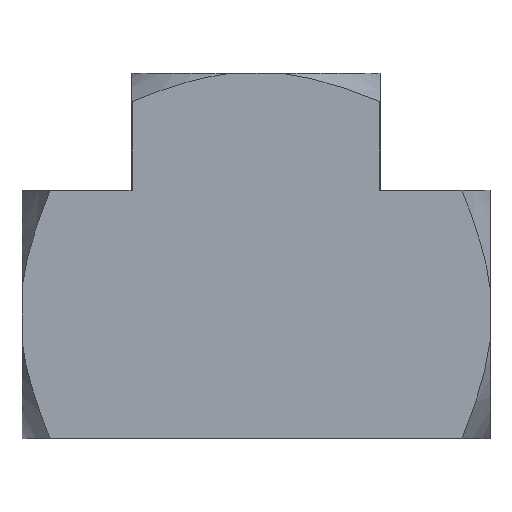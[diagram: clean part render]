
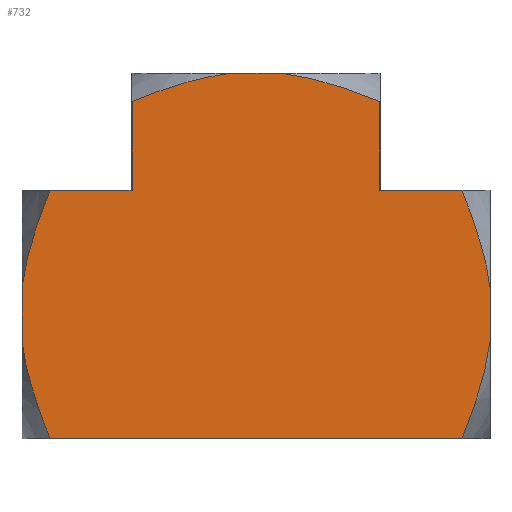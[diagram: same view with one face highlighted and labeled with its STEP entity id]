
A CAD part, front view. The second image highlights one B-rep face of the part: STEP entity #732.
In plain terms, the highlighted planar face has unit normal (0, -1, 0).
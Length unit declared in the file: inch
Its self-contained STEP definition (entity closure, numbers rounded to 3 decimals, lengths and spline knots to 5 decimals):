
#22=(
BOUNDED_CURVE()
B_SPLINE_CURVE(2,(#1271,#1272,#1273),.UNSPECIFIED.,.F.,.F.)
B_SPLINE_CURVE_WITH_KNOTS((3,3),(0.,0.58586),.UNSPECIFIED.)
CURVE()
GEOMETRIC_REPRESENTATION_ITEM()
RATIONAL_B_SPLINE_CURVE((1.,1.057,1.))
REPRESENTATION_ITEM('')
);
#24=(
BOUNDED_CURVE()
B_SPLINE_CURVE(2,(#1279,#1280,#1281),.UNSPECIFIED.,.F.,.F.)
B_SPLINE_CURVE_WITH_KNOTS((3,3),(0.,0.58586),.UNSPECIFIED.)
CURVE()
GEOMETRIC_REPRESENTATION_ITEM()
RATIONAL_B_SPLINE_CURVE((1.,1.057,1.))
REPRESENTATION_ITEM('')
);
#27=(
BOUNDED_CURVE()
B_SPLINE_CURVE(2,(#1294,#1295,#1296),.UNSPECIFIED.,.F.,.F.)
B_SPLINE_CURVE_WITH_KNOTS((3,3),(0.,0.58466),.UNSPECIFIED.)
CURVE()
GEOMETRIC_REPRESENTATION_ITEM()
RATIONAL_B_SPLINE_CURVE((1.,1.056,1.))
REPRESENTATION_ITEM('')
);
#28=(
BOUNDED_CURVE()
B_SPLINE_CURVE(2,(#1297,#1298,#1299),.UNSPECIFIED.,.F.,.F.)
B_SPLINE_CURVE_WITH_KNOTS((3,3),(0.,0.58466),.UNSPECIFIED.)
CURVE()
GEOMETRIC_REPRESENTATION_ITEM()
RATIONAL_B_SPLINE_CURVE((1.,1.056,1.))
REPRESENTATION_ITEM('')
);
#29=(
BOUNDED_CURVE()
B_SPLINE_CURVE(2,(#1301,#1302,#1303),.UNSPECIFIED.,.F.,.F.)
B_SPLINE_CURVE_WITH_KNOTS((3,3),(0.,0.58466),.UNSPECIFIED.)
CURVE()
GEOMETRIC_REPRESENTATION_ITEM()
RATIONAL_B_SPLINE_CURVE((1.,1.056,1.))
REPRESENTATION_ITEM('')
);
#30=(
BOUNDED_CURVE()
B_SPLINE_CURVE(2,(#1306,#1307,#1308),.UNSPECIFIED.,.F.,.F.)
B_SPLINE_CURVE_WITH_KNOTS((3,3),(0.,0.58466),.UNSPECIFIED.)
CURVE()
GEOMETRIC_REPRESENTATION_ITEM()
RATIONAL_B_SPLINE_CURVE((1.,1.056,1.))
REPRESENTATION_ITEM('')
);
#62=PLANE('',#834);
#104=FACE_OUTER_BOUND('',#150,.T.);
#150=EDGE_LOOP('',(#626,#627,#628,#629,#630,#631,#632,#633,#634,#635,#636,
#637,#638,#639));
#165=LINE('',#1086,#202);
#170=LINE('',#1113,#207);
#177=LINE('',#1148,#214);
#188=LINE('',#1234,#225);
#191=LINE('',#1255,#228);
#193=LINE('',#1264,#230);
#194=LINE('',#1284,#231);
#196=LINE('',#1305,#233);
#202=VECTOR('',#871,0.3937);
#207=VECTOR('',#898,0.3937);
#214=VECTOR('',#931,0.3937);
#225=VECTOR('',#994,0.3937);
#228=VECTOR('',#1009,0.3937);
#230=VECTOR('',#1021,0.3937);
#231=VECTOR('',#1034,0.3937);
#233=VECTOR('',#1038,0.3937);
#287=VERTEX_POINT('',#1083);
#288=VERTEX_POINT('',#1085);
#298=VERTEX_POINT('',#1110);
#299=VERTEX_POINT('',#1112);
#313=VERTEX_POINT('',#1145);
#314=VERTEX_POINT('',#1147);
#337=VERTEX_POINT('',#1232);
#338=VERTEX_POINT('',#1233);
#343=VERTEX_POINT('',#1253);
#344=VERTEX_POINT('',#1254);
#346=VERTEX_POINT('',#1263);
#347=VERTEX_POINT('',#1283);
#349=VERTEX_POINT('',#1300);
#350=VERTEX_POINT('',#1304);
#364=EDGE_CURVE('',#287,#288,#165,.T.);
#377=EDGE_CURVE('',#298,#299,#170,.T.);
#394=EDGE_CURVE('',#313,#314,#177,.T.);
#426=EDGE_CURVE('',#337,#338,#188,.T.);
#435=EDGE_CURVE('',#343,#344,#191,.T.);
#440=EDGE_CURVE('',#337,#346,#193,.T.);
#443=EDGE_CURVE('',#299,#343,#22,.T.);
#445=EDGE_CURVE('',#346,#298,#24,.T.);
#446=EDGE_CURVE('',#347,#344,#194,.T.);
#450=EDGE_CURVE('',#347,#287,#27,.T.);
#451=EDGE_CURVE('',#314,#338,#28,.T.);
#452=EDGE_CURVE('',#349,#313,#29,.T.);
#453=EDGE_CURVE('',#350,#349,#196,.T.);
#454=EDGE_CURVE('',#288,#350,#30,.T.);
#626=ORIENTED_EDGE('',*,*,#450,.F.);
#627=ORIENTED_EDGE('',*,*,#446,.T.);
#628=ORIENTED_EDGE('',*,*,#435,.F.);
#629=ORIENTED_EDGE('',*,*,#443,.F.);
#630=ORIENTED_EDGE('',*,*,#377,.F.);
#631=ORIENTED_EDGE('',*,*,#445,.F.);
#632=ORIENTED_EDGE('',*,*,#440,.F.);
#633=ORIENTED_EDGE('',*,*,#426,.T.);
#634=ORIENTED_EDGE('',*,*,#451,.F.);
#635=ORIENTED_EDGE('',*,*,#394,.F.);
#636=ORIENTED_EDGE('',*,*,#452,.F.);
#637=ORIENTED_EDGE('',*,*,#453,.F.);
#638=ORIENTED_EDGE('',*,*,#454,.F.);
#639=ORIENTED_EDGE('',*,*,#364,.F.);
#732=ADVANCED_FACE('',(#104),#62,.F.);
#834=AXIS2_PLACEMENT_3D('',#1293,#1036,#1037);
#871=DIRECTION('',(0.,0.,-1.));
#898=DIRECTION('',(1.,0.,0.));
#931=DIRECTION('',(0.,0.,1.));
#994=DIRECTION('',(-1.,0.,0.));
#1009=DIRECTION('',(0.,0.,-1.));
#1021=DIRECTION('',(0.,0.,1.));
#1034=DIRECTION('',(-1.,0.,0.));
#1036=DIRECTION('center_axis',(0.,1.,0.));
#1037=DIRECTION('ref_axis',(0.,0.,-1.));
#1038=DIRECTION('',(-1.,0.,0.));
#1083=CARTESIAN_POINT('',(0.53,-0.281,0.06029));
#1085=CARTESIAN_POINT('',(0.53,-0.281,-0.06029));
#1086=CARTESIAN_POINT('',(0.53,-0.281,0.1405));
#1110=CARTESIAN_POINT('',(-0.05959,-0.281,0.546));
#1112=CARTESIAN_POINT('',(0.05959,-0.281,0.546));
#1113=CARTESIAN_POINT('',(-0.1405,-0.281,0.546));
#1145=CARTESIAN_POINT('',(-0.53,-0.281,-0.06029));
#1147=CARTESIAN_POINT('',(-0.53,-0.281,0.06029));
#1148=CARTESIAN_POINT('',(-0.53,-0.281,0.1405));
#1232=CARTESIAN_POINT('',(-0.2808,-0.281,0.281));
#1233=CARTESIAN_POINT('',(-0.46649,-0.281,0.281));
#1234=CARTESIAN_POINT('',(0.,-0.281,0.281));
#1253=CARTESIAN_POINT('',(0.2808,-0.281,0.48249));
#1254=CARTESIAN_POINT('',(0.2808,-0.281,0.281));
#1255=CARTESIAN_POINT('',(0.2808,-0.281,0.281));
#1263=CARTESIAN_POINT('',(-0.2808,-0.281,0.48249));
#1264=CARTESIAN_POINT('',(-0.2808,-0.281,0.281));
#1271=CARTESIAN_POINT('Ctrl Pts',(0.05959,-0.281,0.546));
#1272=CARTESIAN_POINT('Ctrl Pts',(0.15242,-0.281,0.53488));
#1273=CARTESIAN_POINT('Ctrl Pts',(0.2808,-0.281,0.48249));
#1279=CARTESIAN_POINT('Ctrl Pts',(-0.2808,-0.281,0.48249));
#1280=CARTESIAN_POINT('Ctrl Pts',(-0.15242,-0.281,0.53488));
#1281=CARTESIAN_POINT('Ctrl Pts',(-0.05959,-0.281,0.546));
#1283=CARTESIAN_POINT('',(0.46649,-0.281,0.281));
#1284=CARTESIAN_POINT('',(0.,-0.281,0.281));
#1293=CARTESIAN_POINT('Origin',(0.53,-0.281,0.281));
#1294=CARTESIAN_POINT('Ctrl Pts',(0.46649,-0.281,0.281));
#1295=CARTESIAN_POINT('Ctrl Pts',(0.51878,-0.281,0.15292));
#1296=CARTESIAN_POINT('Ctrl Pts',(0.53,-0.281,0.06029));
#1297=CARTESIAN_POINT('Ctrl Pts',(-0.53,-0.281,0.06029));
#1298=CARTESIAN_POINT('Ctrl Pts',(-0.51878,-0.281,0.15292));
#1299=CARTESIAN_POINT('Ctrl Pts',(-0.46649,-0.281,0.281));
#1300=CARTESIAN_POINT('',(-0.46649,-0.281,-0.281));
#1301=CARTESIAN_POINT('Ctrl Pts',(-0.46649,-0.281,-0.281));
#1302=CARTESIAN_POINT('Ctrl Pts',(-0.51878,-0.281,-0.15292));
#1303=CARTESIAN_POINT('Ctrl Pts',(-0.53,-0.281,-0.06029));
#1304=CARTESIAN_POINT('',(0.46649,-0.281,-0.281));
#1305=CARTESIAN_POINT('',(0.,-0.281,-0.281));
#1306=CARTESIAN_POINT('Ctrl Pts',(0.53,-0.281,-0.06029));
#1307=CARTESIAN_POINT('Ctrl Pts',(0.51878,-0.281,-0.15292));
#1308=CARTESIAN_POINT('Ctrl Pts',(0.46649,-0.281,-0.281));
